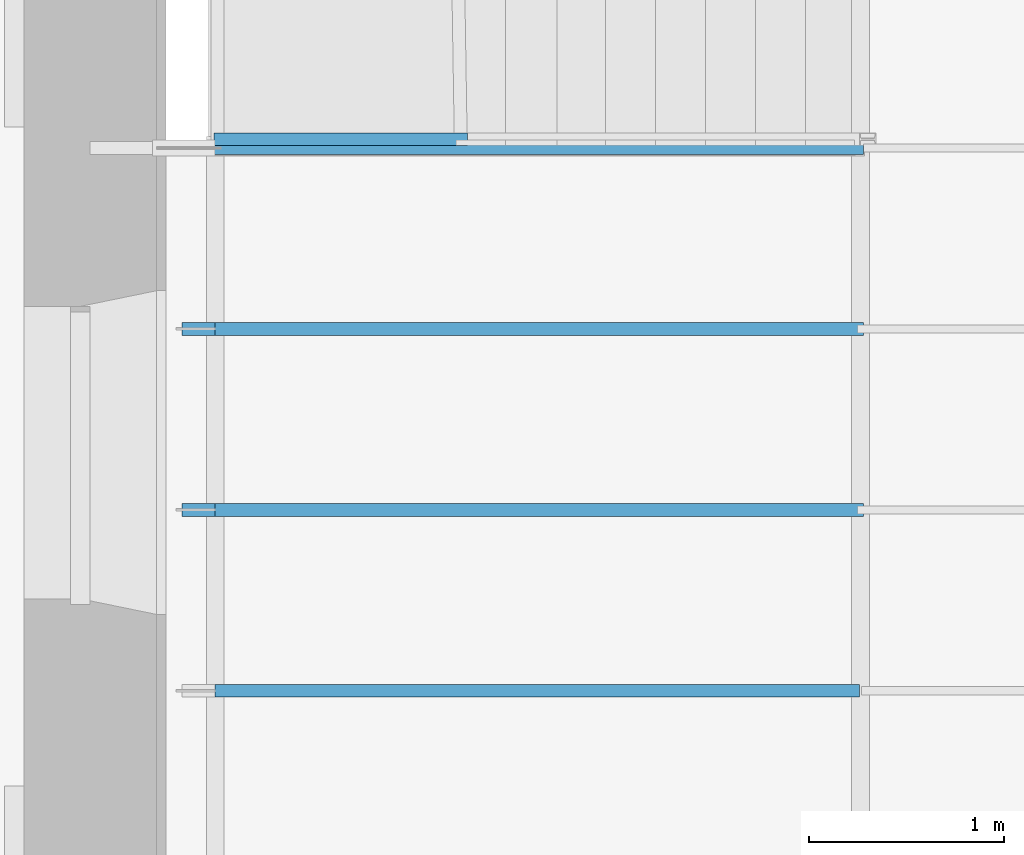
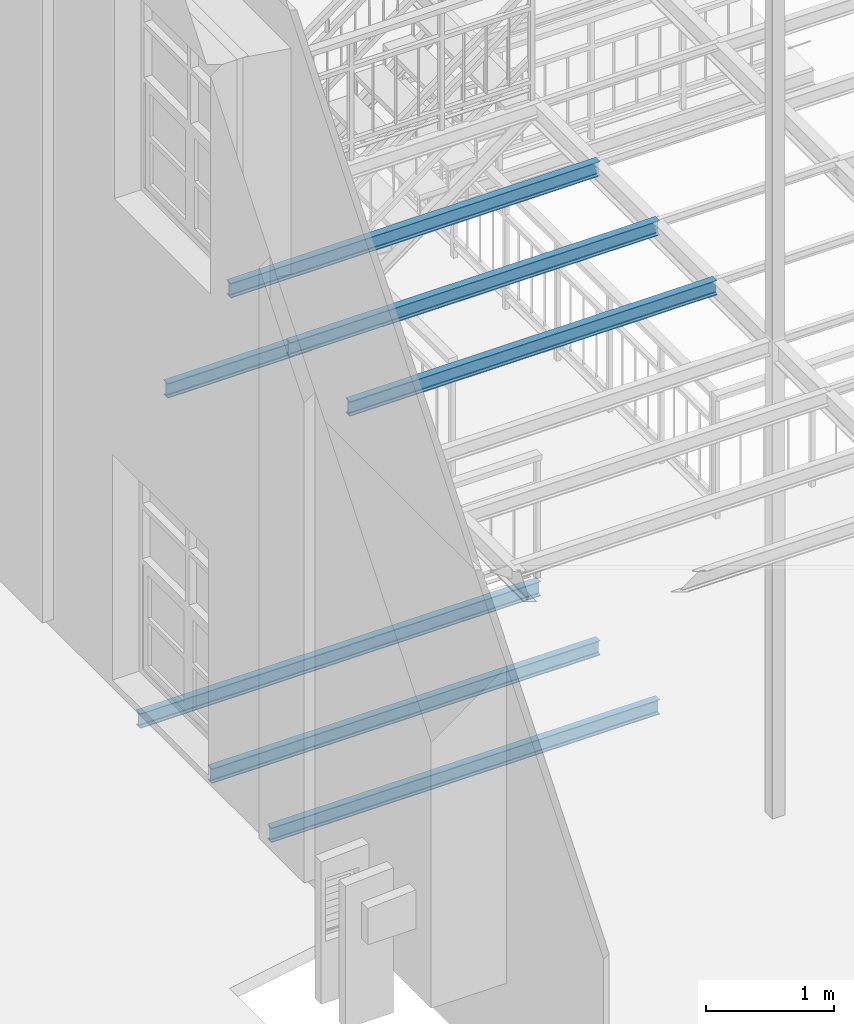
# One storey, part 3 of 33: 7 beams.
"""IFC2X3 building model written with IfcOpenShell, lengths in metres."""

import ifcopenshell
import ifcopenshell.guid

model = None  # the IFC model being written
_history = None  # IfcOwnerHistory: only IFC2X3 demands one
_inside = {}  # id of a spatial element -> (the spatial element, [elements in it])
_under = {}  # id of a project, library or spatial element -> (it, [spatial elements below it])
_declared = {}  # id of a project -> (the project, [libraries it declares])
_typed = {}  # id of a type object -> (the type object, [elements of that type])
_made_of = {}  # id of a material, layer set ... -> (it, [elements and type objects made of it])


def new_model(schema):
    """Start an empty IFC model of exactly this schema.

    Asked for "IFC4X3", IfcOpenShell would pick the latest addendum, in which some entities
    have other attributes; the version numbers below select the first issue.
    IFC2X3 requires an IfcOwnerHistory on every rooted entity: one is made here for all.
    """
    global model, _history
    if schema == "IFC4X3":
        model = ifcopenshell.file(schema_version=(4, 3, 0, 0))
    else:
        model = ifcopenshell.file(schema=schema)
    _inside.clear()
    _under.clear()
    _declared.clear()
    _typed.clear()
    _made_of.clear()
    _history = None
    if model.schema == "IFC2X3":
        org = make("IfcOrganization", Name="unknown")
        user = make(
            "IfcPersonAndOrganization",
            ThePerson=make("IfcPerson", FamilyName="unknown"),
            TheOrganization=org,
        )
        app = make(
            "IfcApplication",
            ApplicationDeveloper=org,
            Version="unknown",
            ApplicationFullName="unknown",
            ApplicationIdentifier="unknown",
        )
        _history = make(
            "IfcOwnerHistory",
            OwningUser=user,
            OwningApplication=app,
            ChangeAction="ADDED",
            CreationDate=0,
        )
    return model


def make(cls, **values):
    """One entity of the class cls with the attributes given. An attribute that is None is left unset."""
    return model.create_entity(
        cls, **{name: value for name, value in values.items() if value is not None}
    )


def entity(cls, *values):
    """Any entity or typed value of the class cls, its attributes in the order of the schema. None: left unset."""
    e = model.create_entity(cls)
    for i, value in enumerate(values):
        if value is not None:
            e[i] = value
    return e


def rooted(cls, **values):
    """An entity with a GlobalId (a new one), such as an element, a storey or a relation."""
    return make(cls, GlobalId=ifcopenshell.guid.new(), OwnerHistory=_history, **values)


def si_unit(unit_type, name, prefix=None):
    """IfcSIUnit, for example si_unit("LENGTHUNIT", "METRE", prefix="MILLI")."""
    return make("IfcSIUnit", UnitType=unit_type, Prefix=prefix, Name=name)


def converted_unit(unit_type, name, factor, base, dimensions=None, offset=None):
    """IfcConversionBasedUnit, such as the inch: factor (a typed value) times the base unit."""
    return make(
        "IfcConversionBasedUnit"
        if offset is None
        else "IfcConversionBasedUnitWithOffset",
        ConversionOffset=offset,
        Dimensions=None
        if dimensions is None
        else entity("IfcDimensionalExponents", *dimensions),
        UnitType=unit_type,
        Name=name,
        ConversionFactor=make(
            "IfcMeasureWithUnit", ValueComponent=factor, UnitComponent=base
        ),
    )


def derived_unit(unit_type, elements):
    """IfcDerivedUnit: a product of units, each with its exponent."""
    return make(
        "IfcDerivedUnit",
        Elements=[
            make("IfcDerivedUnitElement", Unit=unit, Exponent=power)
            for unit, power in elements
        ],
        UnitType=unit_type,
    )


def assignment(units):
    """IfcUnitAssignment: the units of a project."""
    return None if units is None else make("IfcUnitAssignment", Units=units)


def point(xyz):
    """IfcCartesianPoint."""
    return None if xyz is None else make("IfcCartesianPoint", Coordinates=xyz)


def direction(xyz):
    """IfcDirection."""
    return None if xyz is None else make("IfcDirection", DirectionRatios=xyz)


def frame(location, z_axis=None, x_axis=None):
    """IfcAxis2Placement3D, a coordinate frame: its origin and axes. An axis left out is left unset."""
    return make(
        "IfcAxis2Placement3D",
        Location=point(location),
        Axis=direction(z_axis),
        RefDirection=direction(x_axis),
    )


def frame_2d(location, x_axis=None):
    """IfcAxis2Placement2D, a coordinate frame in the plane: its origin and x axis."""
    return make(
        "IfcAxis2Placement2D", Location=point(location), RefDirection=direction(x_axis)
    )


def origin():
    """The frame at (0, 0, 0) with its axes left unset."""
    return frame((0.0, 0.0, 0.0))


def place(relative_to, where):
    """IfcLocalPlacement: puts the frame where relative to a parent placement (None: the world)."""
    return make(
        "IfcLocalPlacement", PlacementRelTo=relative_to, RelativePlacement=where
    )


def context(
    kind, dimensions, precision=None, world=None, true_north=None, identifier=None
):
    """IfcGeometricRepresentationContext, for example the 3D "Model" context."""
    return make(
        "IfcGeometricRepresentationContext",
        ContextIdentifier=identifier,
        ContextType=kind,
        CoordinateSpaceDimension=dimensions,
        Precision=precision,
        WorldCoordinateSystem=world,
        TrueNorth=true_north,
    )


def subcontext(parent, identifier, kind, view, scale=None):
    """IfcGeometricRepresentationSubContext, for example "Body" below "Model"."""
    return make(
        "IfcGeometricRepresentationSubContext",
        ContextIdentifier=identifier,
        ContextType=kind,
        ParentContext=parent,
        TargetScale=scale,
        TargetView=view,
    )


def project(units=None, contexts=None):
    """IfcProject with its units and contexts."""
    return rooted(
        "IfcProject",
        Name="project",
        RepresentationContexts=contexts,
        UnitsInContext=assignment(units),
    )


def spatial(cls, under=None, at=None, **own):
    """A site, building, storey or space (cls), placed at a placement, below another one or the project."""
    s = rooted(cls, ObjectPlacement=at, **own)
    if under is not None:
        _under.setdefault(under.id(), (under, []))[1].append(s)
    return s


def polyline(points):
    """IfcPolyline through the points."""
    return make("IfcPolyline", Points=[point(p) for p in points])


def circle_curve(where, radius):
    """IfcCircle in the frame where."""
    return make("IfcCircle", Position=where, Radius=radius)


def parameter(value):
    """IfcParameterValue: where a trimmed curve begins or ends, as a parameter of its basis curve."""
    return model.create_entity("IfcParameterValue", value)


def trimmed(basis, trim1, trim2, sense, master):
    """IfcTrimmedCurve: the piece of a basis curve between two trims."""
    return make(
        "IfcTrimmedCurve",
        BasisCurve=basis,
        Trim1=trim1,
        Trim2=trim2,
        SenseAgreement=sense,
        MasterRepresentation=master,
    )


def segment(curve, same_sense, transition):
    """IfcCompositeCurveSegment."""
    return make(
        "IfcCompositeCurveSegment",
        Transition=transition,
        SameSense=same_sense,
        ParentCurve=curve,
    )


def composite_curve(segments, self_intersect=None):
    """IfcCompositeCurve: segments joined end to end."""
    return make("IfcCompositeCurve", Segments=segments, SelfIntersect=self_intersect)


def outline(outer, holes=None, kind="AREA"):
    """IfcArbitraryClosedProfileDef: a profile drawn as a closed curve; with holes, ...WithVoids."""
    if holes is None:
        return make("IfcArbitraryClosedProfileDef", ProfileType=kind, OuterCurve=outer)
    return make(
        "IfcArbitraryProfileDefWithVoids",
        ProfileType=kind,
        OuterCurve=outer,
        InnerCurves=holes,
    )


def extrude(swept, where, along, depth):
    """IfcExtrudedAreaSolid: the profile swept, set in the frame where, extruded along a direction by depth."""
    return make(
        "IfcExtrudedAreaSolid",
        SweptArea=swept,
        Position=where,
        ExtrudedDirection=direction(along),
        Depth=depth,
    )


def shape(context_of_items, identifier, shape_type, items):
    """IfcShapeRepresentation: the items that make up one representation, for example the "Body"."""
    return make(
        "IfcShapeRepresentation",
        ContextOfItems=context_of_items,
        RepresentationIdentifier=identifier,
        RepresentationType=shape_type,
        Items=items,
    )


def material(Name=None, Category=None):
    """IfcMaterial."""
    return make("IfcMaterial", Name=Name, Category=Category)


def made_of(thing, what):
    """Note that an element or type object is made of a material, layer set ...; save() writes the relation."""
    if what is not None:
        _made_of.setdefault(what.id(), (what, []))[1].append(thing)
    return thing


def type_object(cls, material=None, **own):
    """A type object (cls), such as IfcWallType, which elements share."""
    return made_of(rooted(cls, **own), material)


def element(
    cls,
    number,
    at=None,
    inside=None,
    cuts=None,
    type_object=None,
    material=None,
    context=None,
    identifier="Body",
    shape_type=None,
    held_by="IfcProductDefinitionShape",
    body=None,
    shapes=None,
    **own,
):
    """One element of the class cls, such as IfcWall. Its Tag is "e" and its number.

    at: its placement. inside: the storey or other place that contains it. cuts: it is an
    opening in that element (IfcRelVoidsElement). A single representation is given by context,
    identifier, shape_type and body (its items); several are given by shapes. held_by: the class
    of the entity that holds the representations. save() writes the other relations.
    """
    e = rooted(cls, Tag="e%d" % number, ObjectPlacement=at, **own)
    if body is not None:
        shapes = [shape(context, identifier, shape_type, body)]
    if shapes is not None:
        e.Representation = make(held_by, Representations=shapes)
    if inside is not None:
        _inside.setdefault(inside.id(), (inside, []))[1].append(e)
    if cuts is not None:
        rooted(
            "IfcRelVoidsElement", RelatingBuildingElement=cuts, RelatedOpeningElement=e
        )
    if type_object is not None:
        _typed.setdefault(type_object.id(), (type_object, []))[1].append(e)
    return made_of(e, material)


def aggregate(whole, parts):
    """IfcRelAggregates: a whole, such as a stair, and the parts it consists of."""
    return rooted("IfcRelAggregates", RelatingObject=whole, RelatedObjects=parts)


def save(model, path):
    """Write the relations noted so far, then the file.

    IfcRelAggregates (storeys below a building ...), IfcRelContainedInSpatialStructure (elements
    in a storey), IfcRelDefinesByType, IfcRelAssociatesMaterial and IfcRelDeclares: one each for
    every whole, place, type object, material and project.
    """
    for whole, parts in _under.values():
        aggregate(whole, parts)
    for where, things in _inside.values():
        rooted(
            "IfcRelContainedInSpatialStructure",
            RelatedElements=things,
            RelatingStructure=where,
        )
    for kind, things in _typed.values():
        rooted("IfcRelDefinesByType", RelatedObjects=things, RelatingType=kind)
    for what, things in _made_of.values():
        rooted("IfcRelAssociatesMaterial", RelatedObjects=things, RelatingMaterial=what)
    for by, libraries in _declared.values():
        rooted("IfcRelDeclares", RelatingContext=by, RelatedDefinitions=libraries)
    model.write(path)


model = new_model("IFC2X3")

# Units and contexts
model_context = context("Model", 3, precision=1e-05, world=origin(), true_north=direction((6.12303176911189e-17, 1.0)))
body_context = subcontext(model_context, "Body", "Model", "MODEL_VIEW")
ifc_project = project(units=[si_unit("LENGTHUNIT", "METRE"), si_unit("AREAUNIT", "SQUARE_METRE"), si_unit("VOLUMEUNIT", "CUBIC_METRE"), converted_unit("PLANEANGLEUNIT", "DEGREE", entity("IfcRatioMeasure", 0.0174532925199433), si_unit("PLANEANGLEUNIT", "RADIAN"), dimensions=[0, 0, 0, 0, 0, 0, 0]), si_unit("MASSUNIT", "GRAM", prefix="KILO"), derived_unit("MASSDENSITYUNIT", [(si_unit("MASSUNIT", "GRAM", prefix="KILO"), 1), (si_unit("LENGTHUNIT", "METRE"), -3)]), derived_unit("MOMENTOFINERTIAUNIT", [(si_unit("LENGTHUNIT", "METRE"), 4)]), si_unit("TIMEUNIT", "SECOND"), si_unit("FREQUENCYUNIT", "HERTZ"), si_unit("THERMODYNAMICTEMPERATUREUNIT", "DEGREE_CELSIUS"), derived_unit("THERMALTRANSMITTANCEUNIT", [(si_unit("MASSUNIT", "GRAM", prefix="KILO"), 1), (si_unit("THERMODYNAMICTEMPERATUREUNIT", "KELVIN"), -1), (si_unit("TIMEUNIT", "SECOND"), -3)]), derived_unit("VOLUMETRICFLOWRATEUNIT", [(si_unit("LENGTHUNIT", "METRE"), 3), (si_unit("TIMEUNIT", "SECOND"), -1)]), si_unit("ELECTRICCURRENTUNIT", "AMPERE"), si_unit("ELECTRICVOLTAGEUNIT", "VOLT"), si_unit("POWERUNIT", "WATT"), si_unit("FORCEUNIT", "NEWTON", prefix="KILO"), si_unit("ILLUMINANCEUNIT", "LUX"), si_unit("LUMINOUSFLUXUNIT", "LUMEN"), si_unit("LUMINOUSINTENSITYUNIT", "CANDELA"), derived_unit("USERDEFINED", [(si_unit("MASSUNIT", "GRAM", prefix="KILO"), -1), (si_unit("LENGTHUNIT", "METRE"), -2), (si_unit("TIMEUNIT", "SECOND"), 3), (si_unit("LUMINOUSFLUXUNIT", "LUMEN"), 1)]), derived_unit("LINEARVELOCITYUNIT", [(si_unit("LENGTHUNIT", "METRE"), 1), (si_unit("TIMEUNIT", "SECOND"), -1)]), si_unit("PRESSUREUNIT", "PASCAL"), derived_unit("USERDEFINED", [(si_unit("LENGTHUNIT", "METRE"), -2), (si_unit("MASSUNIT", "GRAM", prefix="KILO"), 1), (si_unit("TIMEUNIT", "SECOND"), -2)]), derived_unit("LINEARFORCEUNIT", [(si_unit("MASSUNIT", "GRAM", prefix="KILO"), 1), (si_unit("LENGTHUNIT", "METRE"), 1), (si_unit("TIMEUNIT", "SECOND"), -2), (si_unit("LENGTHUNIT", "METRE"), -1)]), derived_unit("PLANARFORCEUNIT", [(si_unit("MASSUNIT", "GRAM", prefix="KILO"), 1), (si_unit("LENGTHUNIT", "METRE"), 1), (si_unit("TIMEUNIT", "SECOND"), -2), (si_unit("LENGTHUNIT", "METRE"), -2)])], contexts=[model_context])

# Site, building, storey
site_placement = place(None, origin())
site = spatial("IfcSite", under=ifc_project, at=site_placement, Name="Superficie", CompositionType="ELEMENT")
building_placement = place(site_placement, origin())
building = spatial("IfcBuilding", under=site, at=building_placement, Name="Telegestiones", CompositionType="ELEMENT")
storey_placement = place(building_placement, frame((0.0, 0.0, 4.94)))
storey = spatial("IfcBuildingStorey", under=building, at=storey_placement, Name="Nivel 1_NPT", CompositionType="ELEMENT", Elevation=4.94)

# Beams
ifc_material = material(Name="Metal - Acero - 345 MPa")
beam_type = type_object("IfcBeamType", Name="IPN - Secciones en I con alas cónicas:IPN 140", PredefinedType="NOTDEFINED")
beam_1_placement = place(storey_placement, frame((6.06015072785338, 1.48459406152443, 0.0)))
element("IfcBeam", 1, at=beam_1_placement, inside=storey, type_object=beam_type, material=ifc_material, Name="IPN - Secciones en I con alas cónicas:IPN 140", ObjectType="IPN - Secciones en I con alas cónicas:IPN 140", context=body_context, shape_type="SweptSolid", body=[
    extrude(outline(composite_curve([segment(polyline([(0.0666671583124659, -0.0330000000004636), (0.0699999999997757, -0.0330000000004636)]), True, "CONTINUOUS"), segment(polyline([(0.0699999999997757, -0.0330000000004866), (0.070000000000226, 0.0329999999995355)]), True, "CONTINUOUS"), segment(polyline([(0.0700000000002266, 0.0329999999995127), (0.0666671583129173, 0.0329999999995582)]), True, "CONTINUOUS"), segment(trimmed(circle_curve(frame_2d((0.0666671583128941, 0.0295999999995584), x_axis=(0.0, 1.0)), 0.00339999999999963), [parameter(0.0)], [parameter(82.0303896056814)], True, "PARAMETER"), True, "CONTINUOUS"), segment(polyline([(0.0632999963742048, 0.0300714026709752), (0.0601763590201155, 0.00775970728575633)]), True, "CONTINUOUS"), segment(trimmed(circle_curve(frame_2d((0.0545314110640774, 0.0085499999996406), x_axis=(0.990341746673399, -0.138647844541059)), 0.0056999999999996), [parameter(277.969610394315)], [parameter(0.0)], True, "PARAMETER"), False, "CONTINUOUS"), segment(polyline([(0.0545314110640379, 0.00284999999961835), (-0.054531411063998, 0.00285000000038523)]), True, "CONTINUOUS"), segment(trimmed(circle_curve(frame_2d((-0.0545314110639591, 0.00855000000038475), x_axis=(0.0, -1.0)), 0.00569999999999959), [parameter(277.969610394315)], [parameter(0.0)], True, "PARAMETER"), False, "CONTINUOUS"), segment(polyline([(-0.060176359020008, 0.00775970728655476), (-0.0632999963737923, 0.030071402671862)]), True, "CONTINUOUS"), segment(trimmed(circle_curve(frame_2d((-0.0666671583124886, 0.0296000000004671), x_axis=(0.990341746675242, 0.138647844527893)), 0.00340000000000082), [parameter(0.0)], [parameter(82.0303896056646)], True, "PARAMETER"), True, "CONTINUOUS"), segment(polyline([(-0.0666671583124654, 0.0330000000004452), (-0.0699999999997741, 0.0330000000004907)]), True, "CONTINUOUS"), segment(polyline([(-0.0699999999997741, 0.033000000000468), (-0.0700000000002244, -0.0329999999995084)]), True, "CONTINUOUS"), segment(polyline([(-0.0700000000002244, -0.0329999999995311), (-0.0666671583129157, -0.0329999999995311)]), True, "CONTINUOUS"), segment(trimmed(circle_curve(frame_2d((-0.0666671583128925, -0.0295999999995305), x_axis=(0.0, -1.0)), 0.00340000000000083), [parameter(0.0)], [parameter(82.0303896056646)], True, "PARAMETER"), True, "CONTINUOUS"), segment(polyline([(-0.0632999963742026, -0.0300714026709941), (-0.0601763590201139, -0.00775970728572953)]), True, "CONTINUOUS"), segment(trimmed(circle_curve(frame_2d((-0.0545314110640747, -0.00854999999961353), x_axis=(-0.990341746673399, 0.138647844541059)), 0.00569999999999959), [parameter(277.969610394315)], [parameter(0.0)], True, "PARAMETER"), False, "CONTINUOUS"), segment(polyline([(-0.0545314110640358, -0.00284999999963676), (0.054531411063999, -0.00285000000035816)]), True, "CONTINUOUS"), segment(trimmed(circle_curve(frame_2d((0.0545314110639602, -0.00855000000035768), x_axis=(0.0, 1.0)), 0.0056999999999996), [parameter(277.969610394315)], [parameter(0.0)], True, "PARAMETER"), False, "CONTINUOUS"), segment(polyline([(0.0601763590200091, -0.00775970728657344), (0.0632999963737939, -0.0300714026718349)]), True, "CONTINUOUS"), segment(trimmed(circle_curve(frame_2d((0.0666671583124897, -0.0296000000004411), x_axis=(-0.990341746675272, -0.13864784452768)), 0.00340000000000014), [parameter(0.0)], [parameter(82.0303896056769)], True, "PARAMETER"), True, "CONTINUOUS")], self_intersect=False)), frame((-0.00461847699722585, 0.0, -0.100000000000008), z_axis=(1.0, 0.0, 0.0), x_axis=(0.0, 0.0, -1.0)), (0.0, 0.0, 1.0), 3.60394942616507),
])
beam_2_placement = place(storey_placement, frame((6.16481262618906, 0.556847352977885, 0.0)))
element("IfcBeam", 2, at=beam_2_placement, inside=storey, type_object=beam_type, material=ifc_material, Name="IPN - Secciones en I con alas cónicas:IPN 140", ObjectType="IPN - Secciones en I con alas cónicas:IPN 140", context=body_context, shape_type="SweptSolid", body=[
    extrude(outline(composite_curve([segment(polyline([(0.0666671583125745, -0.0330000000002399), (0.0699999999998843, -0.0330000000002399)]), True, "CONTINUOUS"), segment(polyline([(0.0699999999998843, -0.0330000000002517), (0.0700000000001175, 0.0329999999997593)]), True, "CONTINUOUS"), segment(polyline([(0.070000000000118, 0.0329999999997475), (0.0666671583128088, 0.0329999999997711)]), True, "CONTINUOUS"), segment(trimmed(circle_curve(frame_2d((0.0666671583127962, 0.0295999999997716), x_axis=(0.0, 1.0)), 0.00339999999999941), [parameter(0.0)], [parameter(82.0303896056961)], True, "PARAMETER"), True, "CONTINUOUS"), segment(polyline([(0.0632999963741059, 0.0300714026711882), (0.06017635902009, 0.00775970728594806)]), True, "CONTINUOUS"), segment(trimmed(circle_curve(frame_2d((0.0545314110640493, 0.00854999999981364), x_axis=(0.99034174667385, -0.138647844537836)), 0.0056999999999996), [parameter(277.969610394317)], [parameter(0.0)], True, "PARAMETER"), False, "CONTINUOUS"), segment(polyline([(0.0545314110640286, 0.00284999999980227), (-0.0545314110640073, 0.00285000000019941)]), True, "CONTINUOUS"), segment(trimmed(circle_curve(frame_2d((-0.0545314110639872, 0.00855000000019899), x_axis=(0.0, -1.0)), 0.00569999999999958), [parameter(277.969610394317)], [parameter(0.0)], True, "PARAMETER"), False, "CONTINUOUS"), segment(polyline([(-0.0601763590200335, 0.00775970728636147), (-0.0632999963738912, 0.0300714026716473)]), True, "CONTINUOUS"), segment(trimmed(circle_curve(frame_2d((-0.066667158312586, 0.0296000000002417), x_axis=(0.990341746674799, 0.138647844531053)), 0.00340000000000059), [parameter(0.0)], [parameter(82.0303896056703)], True, "PARAMETER"), True, "CONTINUOUS"), segment(polyline([(-0.0666671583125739, 0.0330000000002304), (-0.0699999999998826, 0.033000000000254)]), True, "CONTINUOUS"), segment(polyline([(-0.0699999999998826, 0.0330000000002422), (-0.0700000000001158, -0.0329999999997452)]), True, "CONTINUOUS"), segment(polyline([(-0.0700000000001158, -0.032999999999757), (-0.0666671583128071, -0.032999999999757)]), True, "CONTINUOUS"), segment(trimmed(circle_curve(frame_2d((-0.0666671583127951, -0.0295999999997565), x_axis=(0.0, -1.0)), 0.00340000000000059), [parameter(0.0)], [parameter(82.0303896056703)], True, "PARAMETER"), True, "CONTINUOUS"), segment(polyline([(-0.0632999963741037, -0.0300714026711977), (-0.0601763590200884, -0.00775970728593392)]), True, "CONTINUOUS"), segment(trimmed(circle_curve(frame_2d((-0.0545314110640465, -0.00854999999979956), x_axis=(-0.99034174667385, 0.138647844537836)), 0.0056999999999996), [parameter(277.969610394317)], [parameter(0.0)], True, "PARAMETER"), False, "CONTINUOUS"), segment(polyline([(-0.0545314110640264, -0.00284999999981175), (0.0545314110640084, -0.00285000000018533)]), True, "CONTINUOUS"), segment(trimmed(circle_curve(frame_2d((0.0545314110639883, -0.00855000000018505), x_axis=(0.0, 1.0)), 0.00569999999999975), [parameter(277.969610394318)], [parameter(0.0)], True, "PARAMETER"), False, "CONTINUOUS"), segment(polyline([(0.0601763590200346, -0.00775970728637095), (0.0632999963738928, -0.0300714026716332)]), True, "CONTINUOUS"), segment(trimmed(circle_curve(frame_2d((0.0666671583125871, -0.0296000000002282), x_axis=(-0.990341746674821, -0.138647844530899)), 0.0033999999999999), [parameter(0.0)], [parameter(82.0303896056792)], True, "PARAMETER"), True, "CONTINUOUS")], self_intersect=False)), frame((0.0, 0.0, -0.100000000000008), z_axis=(1.0, 0.0, 0.0), x_axis=(0.0, 0.0, -1.0)), (0.0, 0.0, 1.0), 3.495),
])
beam_3_placement = place(storey_placement, frame((6.16481262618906, -0.370899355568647, 0.0)))
element("IfcBeam", 3, at=beam_3_placement, inside=storey, type_object=beam_type, material=ifc_material, Name="IPN - Secciones en I con alas cónicas:IPN 140", ObjectType="IPN - Secciones en I con alas cónicas:IPN 140", context=body_context, shape_type="SweptSolid", body=[
    extrude(outline(composite_curve([segment(polyline([(0.0666671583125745, -0.0330000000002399), (0.0699999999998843, -0.0330000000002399)]), True, "CONTINUOUS"), segment(polyline([(0.0699999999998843, -0.0330000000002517), (0.0700000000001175, 0.0329999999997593)]), True, "CONTINUOUS"), segment(polyline([(0.070000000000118, 0.0329999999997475), (0.0666671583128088, 0.0329999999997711)]), True, "CONTINUOUS"), segment(trimmed(circle_curve(frame_2d((0.0666671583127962, 0.0295999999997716), x_axis=(0.0, 1.0)), 0.00339999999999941), [parameter(0.0)], [parameter(82.0303896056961)], True, "PARAMETER"), True, "CONTINUOUS"), segment(polyline([(0.0632999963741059, 0.0300714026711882), (0.06017635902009, 0.00775970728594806)]), True, "CONTINUOUS"), segment(trimmed(circle_curve(frame_2d((0.0545314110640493, 0.00854999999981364), x_axis=(0.99034174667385, -0.138647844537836)), 0.0056999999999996), [parameter(277.969610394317)], [parameter(0.0)], True, "PARAMETER"), False, "CONTINUOUS"), segment(polyline([(0.0545314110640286, 0.00284999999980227), (-0.0545314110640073, 0.00285000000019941)]), True, "CONTINUOUS"), segment(trimmed(circle_curve(frame_2d((-0.0545314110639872, 0.00855000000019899), x_axis=(0.0, -1.0)), 0.00569999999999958), [parameter(277.969610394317)], [parameter(0.0)], True, "PARAMETER"), False, "CONTINUOUS"), segment(polyline([(-0.0601763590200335, 0.00775970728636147), (-0.0632999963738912, 0.0300714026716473)]), True, "CONTINUOUS"), segment(trimmed(circle_curve(frame_2d((-0.066667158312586, 0.0296000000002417), x_axis=(0.990341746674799, 0.138647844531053)), 0.00340000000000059), [parameter(0.0)], [parameter(82.0303896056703)], True, "PARAMETER"), True, "CONTINUOUS"), segment(polyline([(-0.0666671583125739, 0.0330000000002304), (-0.0699999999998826, 0.033000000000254)]), True, "CONTINUOUS"), segment(polyline([(-0.0699999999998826, 0.0330000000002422), (-0.0700000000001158, -0.0329999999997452)]), True, "CONTINUOUS"), segment(polyline([(-0.0700000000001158, -0.032999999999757), (-0.0666671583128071, -0.032999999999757)]), True, "CONTINUOUS"), segment(trimmed(circle_curve(frame_2d((-0.0666671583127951, -0.0295999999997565), x_axis=(0.0, -1.0)), 0.00340000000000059), [parameter(0.0)], [parameter(82.0303896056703)], True, "PARAMETER"), True, "CONTINUOUS"), segment(polyline([(-0.0632999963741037, -0.0300714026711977), (-0.0601763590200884, -0.00775970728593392)]), True, "CONTINUOUS"), segment(trimmed(circle_curve(frame_2d((-0.0545314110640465, -0.00854999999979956), x_axis=(-0.99034174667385, 0.138647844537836)), 0.0056999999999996), [parameter(277.969610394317)], [parameter(0.0)], True, "PARAMETER"), False, "CONTINUOUS"), segment(polyline([(-0.0545314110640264, -0.00284999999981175), (0.0545314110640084, -0.00285000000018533)]), True, "CONTINUOUS"), segment(trimmed(circle_curve(frame_2d((0.0545314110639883, -0.00855000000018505), x_axis=(0.0, 1.0)), 0.00569999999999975), [parameter(277.969610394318)], [parameter(0.0)], True, "PARAMETER"), False, "CONTINUOUS"), segment(polyline([(0.0601763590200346, -0.00775970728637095), (0.0632999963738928, -0.0300714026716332)]), True, "CONTINUOUS"), segment(trimmed(circle_curve(frame_2d((0.0666671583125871, -0.0296000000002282), x_axis=(-0.990341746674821, -0.138647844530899)), 0.0033999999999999), [parameter(0.0)], [parameter(82.0303896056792)], True, "PARAMETER"), True, "CONTINUOUS")], self_intersect=False)), frame((0.0, 0.0, -0.100000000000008), z_axis=(1.0, 0.0, 0.0), x_axis=(0.0, 0.0, -1.0)), (0.0, 0.0, 1.0), 3.495),
])
beam_4_placement = place(storey_placement, frame((6.33481262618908, 0.556847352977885, 4.56)))
element("IfcBeam", 4, at=beam_4_placement, inside=storey, type_object=beam_type, material=ifc_material, Name="IPN - Secciones en I con alas cónicas:IPN 140", ObjectType="IPN - Secciones en I con alas cónicas:IPN 140", context=body_context, shape_type="SweptSolid", body=[
    extrude(outline(composite_curve([segment(polyline([(0.0666671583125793, -0.0330000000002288), (0.0699999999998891, -0.0330000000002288)]), True, "CONTINUOUS"), segment(polyline([(0.0699999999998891, -0.03300000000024), (0.0700000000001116, 0.0329999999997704)]), True, "CONTINUOUS"), segment(polyline([(0.0700000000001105, 0.0329999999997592), (0.0666671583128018, 0.0329999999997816)]), True, "CONTINUOUS"), segment(trimmed(circle_curve(frame_2d((0.0666671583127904, 0.0295999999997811), x_axis=(0.0, 1.0)), 0.00340000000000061), [parameter(0.0)], [parameter(82.0303896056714)], True, "PARAMETER"), True, "CONTINUOUS"), segment(polyline([(0.0632999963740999, 0.0300714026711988), (0.0601763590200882, 0.00775970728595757)]), True, "CONTINUOUS"), segment(trimmed(circle_curve(frame_2d((0.0545314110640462, 0.00854999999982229), x_axis=(0.990341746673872, -0.138647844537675)), 0.0056999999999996), [parameter(277.969610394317)], [parameter(0.0)], True, "PARAMETER"), False, "CONTINUOUS"), segment(polyline([(0.054531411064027, 0.0028499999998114), (-0.0545314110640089, 0.00285000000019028)]), True, "CONTINUOUS"), segment(trimmed(circle_curve(frame_2d((-0.0545314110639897, 0.00855000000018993), x_axis=(0.0, -1.0)), 0.00569999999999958), [parameter(277.969610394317)], [parameter(0.0)], True, "PARAMETER"), False, "CONTINUOUS"), segment(polyline([(-0.0601763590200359, 0.00775970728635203), (-0.0632999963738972, 0.0300714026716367)]), True, "CONTINUOUS"), segment(trimmed(circle_curve(frame_2d((-0.0666671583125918, 0.0296000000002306), x_axis=(0.990341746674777, 0.138647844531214)), 0.00340000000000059), [parameter(0.0)], [parameter(82.0303896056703)], True, "PARAMETER"), True, "CONTINUOUS"), segment(polyline([(-0.0666671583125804, 0.0330000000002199), (-0.0699999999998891, 0.0330000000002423)]), True, "CONTINUOUS"), segment(polyline([(-0.0699999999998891, 0.0330000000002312), (-0.0700000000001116, -0.0329999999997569)]), True, "CONTINUOUS"), segment(polyline([(-0.0700000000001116, -0.0329999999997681), (-0.0666671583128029, -0.0329999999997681)]), True, "CONTINUOUS"), segment(trimmed(circle_curve(frame_2d((-0.0666671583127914, -0.0295999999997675), x_axis=(0.0, -1.0)), 0.00340000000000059), [parameter(0.0)], [parameter(82.0303896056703)], True, "PARAMETER"), True, "CONTINUOUS"), segment(polyline([(-0.0632999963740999, -0.0300714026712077), (-0.0601763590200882, -0.00775970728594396)]), True, "CONTINUOUS"), segment(trimmed(circle_curve(frame_2d((-0.0545314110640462, -0.00854999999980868), x_axis=(-0.990341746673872, 0.138647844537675)), 0.0056999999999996), [parameter(277.969610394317)], [parameter(0.0)], True, "PARAMETER"), False, "CONTINUOUS"), segment(polyline([(-0.054531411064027, -0.00284999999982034), (0.0545314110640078, -0.00285000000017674)]), True, "CONTINUOUS"), segment(trimmed(circle_curve(frame_2d((0.0545314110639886, -0.00855000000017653), x_axis=(0.0, 1.0)), 0.00569999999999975), [parameter(277.969610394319)], [parameter(0.0)], True, "PARAMETER"), False, "CONTINUOUS"), segment(polyline([(0.0601763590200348, -0.0077597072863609), (0.0632999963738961, -0.0300714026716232)]), True, "CONTINUOUS"), segment(trimmed(circle_curve(frame_2d((0.0666671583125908, -0.029600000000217), x_axis=(-0.990341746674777, -0.138647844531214)), 0.00340000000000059), [parameter(0.0)], [parameter(82.0303896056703)], True, "PARAMETER"), True, "CONTINUOUS")], self_intersect=False)), frame((0.0, 0.0, -0.100000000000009), z_axis=(1.0, 0.0, 0.0), x_axis=(0.0, 0.0, -1.0)), (0.0, 0.0, 1.0), 3.325),
])
beam_5_placement = place(storey_placement, frame((6.33481262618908, -0.370899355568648, 4.56)))
element("IfcBeam", 5, at=beam_5_placement, inside=storey, type_object=beam_type, material=ifc_material, Name="IPN - Secciones en I con alas cónicas:IPN 140", ObjectType="IPN - Secciones en I con alas cónicas:IPN 140", context=body_context, shape_type="SweptSolid", body=[
    extrude(outline(composite_curve([segment(polyline([(0.0666671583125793, -0.0330000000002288), (0.0699999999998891, -0.0330000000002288)]), True, "CONTINUOUS"), segment(polyline([(0.0699999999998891, -0.03300000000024), (0.0700000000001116, 0.0329999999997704)]), True, "CONTINUOUS"), segment(polyline([(0.0700000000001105, 0.0329999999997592), (0.0666671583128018, 0.0329999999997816)]), True, "CONTINUOUS"), segment(trimmed(circle_curve(frame_2d((0.0666671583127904, 0.0295999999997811), x_axis=(0.0, 1.0)), 0.00340000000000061), [parameter(0.0)], [parameter(82.0303896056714)], True, "PARAMETER"), True, "CONTINUOUS"), segment(polyline([(0.0632999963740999, 0.0300714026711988), (0.0601763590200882, 0.00775970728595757)]), True, "CONTINUOUS"), segment(trimmed(circle_curve(frame_2d((0.0545314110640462, 0.00854999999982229), x_axis=(0.990341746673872, -0.138647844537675)), 0.0056999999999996), [parameter(277.969610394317)], [parameter(0.0)], True, "PARAMETER"), False, "CONTINUOUS"), segment(polyline([(0.054531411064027, 0.0028499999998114), (-0.0545314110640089, 0.00285000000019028)]), True, "CONTINUOUS"), segment(trimmed(circle_curve(frame_2d((-0.0545314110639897, 0.00855000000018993), x_axis=(0.0, -1.0)), 0.00569999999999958), [parameter(277.969610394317)], [parameter(0.0)], True, "PARAMETER"), False, "CONTINUOUS"), segment(polyline([(-0.0601763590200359, 0.00775970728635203), (-0.0632999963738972, 0.0300714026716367)]), True, "CONTINUOUS"), segment(trimmed(circle_curve(frame_2d((-0.0666671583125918, 0.0296000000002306), x_axis=(0.990341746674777, 0.138647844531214)), 0.00340000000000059), [parameter(0.0)], [parameter(82.0303896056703)], True, "PARAMETER"), True, "CONTINUOUS"), segment(polyline([(-0.0666671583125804, 0.0330000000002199), (-0.0699999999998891, 0.0330000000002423)]), True, "CONTINUOUS"), segment(polyline([(-0.0699999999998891, 0.0330000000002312), (-0.0700000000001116, -0.0329999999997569)]), True, "CONTINUOUS"), segment(polyline([(-0.0700000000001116, -0.0329999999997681), (-0.0666671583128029, -0.0329999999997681)]), True, "CONTINUOUS"), segment(trimmed(circle_curve(frame_2d((-0.0666671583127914, -0.0295999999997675), x_axis=(0.0, -1.0)), 0.00340000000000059), [parameter(0.0)], [parameter(82.0303896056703)], True, "PARAMETER"), True, "CONTINUOUS"), segment(polyline([(-0.0632999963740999, -0.0300714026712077), (-0.0601763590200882, -0.00775970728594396)]), True, "CONTINUOUS"), segment(trimmed(circle_curve(frame_2d((-0.0545314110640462, -0.00854999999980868), x_axis=(-0.990341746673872, 0.138647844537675)), 0.0056999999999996), [parameter(277.969610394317)], [parameter(0.0)], True, "PARAMETER"), False, "CONTINUOUS"), segment(polyline([(-0.054531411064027, -0.00284999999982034), (0.0545314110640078, -0.00285000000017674)]), True, "CONTINUOUS"), segment(trimmed(circle_curve(frame_2d((0.0545314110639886, -0.00855000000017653), x_axis=(0.0, 1.0)), 0.00569999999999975), [parameter(277.969610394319)], [parameter(0.0)], True, "PARAMETER"), False, "CONTINUOUS"), segment(polyline([(0.0601763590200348, -0.0077597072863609), (0.0632999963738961, -0.0300714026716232)]), True, "CONTINUOUS"), segment(trimmed(circle_curve(frame_2d((0.0666671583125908, -0.029600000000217), x_axis=(-0.990341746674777, -0.138647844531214)), 0.00340000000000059), [parameter(0.0)], [parameter(82.0303896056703)], True, "PARAMETER"), True, "CONTINUOUS")], self_intersect=False)), frame((0.0, 0.0, -0.100000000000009), z_axis=(1.0, 0.0, 0.0), x_axis=(0.0, 0.0, -1.0)), (0.0, 0.0, 1.0), 3.325),
])
beam_6_placement = place(storey_placement, frame((6.33481262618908, -1.29864606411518, 4.56)))
element("IfcBeam", 6, at=beam_6_placement, inside=storey, type_object=beam_type, material=ifc_material, Name="IPN - Secciones en I con alas cónicas:IPN 140", ObjectType="IPN - Secciones en I con alas cónicas:IPN 140", context=body_context, shape_type="SweptSolid", body=[
    extrude(outline(composite_curve([segment(polyline([(0.0666671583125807, -0.0330000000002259), (0.0699999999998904, -0.0330000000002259)]), True, "CONTINUOUS"), segment(polyline([(0.0699999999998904, -0.0330000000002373), (0.0700000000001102, 0.0329999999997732)]), True, "CONTINUOUS"), segment(polyline([(0.0700000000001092, 0.0329999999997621), (0.0666671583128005, 0.0329999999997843)]), True, "CONTINUOUS"), segment(trimmed(circle_curve(frame_2d((0.0666671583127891, 0.0295999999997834), x_axis=(0.0, 1.0)), 0.00340000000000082), [parameter(0.0)], [parameter(82.0303896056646)], True, "PARAMETER"), True, "CONTINUOUS"), segment(polyline([(0.0632999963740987, 0.0300714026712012), (0.0601763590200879, 0.00775970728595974)]), True, "CONTINUOUS"), segment(trimmed(circle_curve(frame_2d((0.0545314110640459, 0.0085499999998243), x_axis=(0.990341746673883, -0.1386478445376)), 0.0056999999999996), [parameter(277.969610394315)], [parameter(0.0)], True, "PARAMETER"), False, "CONTINUOUS"), segment(polyline([(0.0545314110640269, 0.00284999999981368), (-0.054531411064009, 0.002850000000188)]), True, "CONTINUOUS"), segment(trimmed(circle_curve(frame_2d((-0.05453141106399, 0.00855000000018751), x_axis=(0.0, -1.0)), 0.00569999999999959), [parameter(277.969610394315)], [parameter(0.0)], True, "PARAMETER"), False, "CONTINUOUS"), segment(polyline([(-0.0601763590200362, 0.00775970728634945), (-0.0632999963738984, 0.0300714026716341)]), True, "CONTINUOUS"), segment(trimmed(circle_curve(frame_2d((-0.0666671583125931, 0.0296000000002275), x_axis=(0.990341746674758, 0.138647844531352)), 0.00340000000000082), [parameter(0.0)], [parameter(82.0303896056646)], True, "PARAMETER"), True, "CONTINUOUS"), segment(polyline([(-0.0666671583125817, 0.0330000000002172), (-0.0699999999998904, 0.0330000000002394)]), True, "CONTINUOUS"), segment(polyline([(-0.0699999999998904, 0.0330000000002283), (-0.0700000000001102, -0.0329999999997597)]), True, "CONTINUOUS"), segment(polyline([(-0.0700000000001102, -0.0329999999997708), (-0.0666671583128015, -0.0329999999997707)]), True, "CONTINUOUS"), segment(trimmed(circle_curve(frame_2d((-0.0666671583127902, -0.0295999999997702), x_axis=(0.0, -1.0)), 0.00340000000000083), [parameter(0.0)], [parameter(82.0303896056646)], True, "PARAMETER"), True, "CONTINUOUS"), segment(polyline([(-0.0632999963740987, -0.0300714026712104), (-0.0601763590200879, -0.00775970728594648)]), True, "CONTINUOUS"), segment(trimmed(circle_curve(frame_2d((-0.0545314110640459, -0.00854999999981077), x_axis=(-0.990341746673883, 0.1386478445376)), 0.00569999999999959), [parameter(277.969610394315)], [parameter(0.0)], True, "PARAMETER"), False, "CONTINUOUS"), segment(polyline([(-0.0545314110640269, -0.00284999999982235), (0.0545314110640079, -0.00285000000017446)]), True, "CONTINUOUS"), segment(trimmed(circle_curve(frame_2d((0.0545314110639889, -0.00855000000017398), x_axis=(0.0, 1.0)), 0.0056999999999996), [parameter(277.969610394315)], [parameter(0.0)], True, "PARAMETER"), False, "CONTINUOUS"), segment(polyline([(0.0601763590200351, -0.00775970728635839), (0.0632999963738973, -0.0300714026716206)]), True, "CONTINUOUS"), segment(trimmed(circle_curve(frame_2d((0.066667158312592, -0.0296000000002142), x_axis=(-0.990341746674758, -0.138647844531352)), 0.00340000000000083), [parameter(0.0)], [parameter(82.0303896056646)], True, "PARAMETER"), True, "CONTINUOUS")], self_intersect=False)), frame((0.0, 0.0, -0.100000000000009), z_axis=(1.0, 0.0, 0.0), x_axis=(0.0, 0.0, -1.0)), (0.0, 0.0, 1.0), 3.306),
])
beam_7_placement = place(storey_placement, frame((7.59481262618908, 1.52934260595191, 2.98941250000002), z_axis=(0.0, 0.0, 1.0), x_axis=(-1.0, 0.0, 0.0)))
element("IfcBeam", 7, at=beam_7_placement, inside=storey, type_object=beam_type, material=ifc_material, Name="IPN - Secciones en I con alas cónicas:IPN 140", ObjectType="IPN - Secciones en I con alas cónicas:IPN 140", context=body_context, shape_type="SweptSolid", body=[
    extrude(outline(composite_curve([segment(polyline([(0.0666671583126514, -0.0330000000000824), (0.0699999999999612, -0.0330000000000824)]), True, "CONTINUOUS"), segment(polyline([(0.0699999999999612, -0.0330000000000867), (0.0700000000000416, 0.0329999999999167)]), True, "CONTINUOUS"), segment(polyline([(0.0700000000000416, 0.0329999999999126), (0.0666671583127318, 0.0329999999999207)]), True, "CONTINUOUS"), segment(trimmed(circle_curve(frame_2d((0.0666671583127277, 0.0295999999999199), x_axis=(0.0, 1.0)), 0.00340000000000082), [parameter(0.0)], [parameter(82.0303896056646)], True, "PARAMETER"), True, "CONTINUOUS"), segment(polyline([(0.0632999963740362, 0.0300714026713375), (0.0601763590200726, 0.0077597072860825)]), True, "CONTINUOUS"), segment(trimmed(circle_curve(frame_2d((0.0545314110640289, 0.00854999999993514), x_axis=(0.990341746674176, -0.138647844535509)), 0.0056999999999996), [parameter(277.969610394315)], [parameter(0.0)], True, "PARAMETER"), False, "CONTINUOUS"), segment(polyline([(0.054531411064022, 0.00284999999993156), (-0.0545314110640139, 0.0028500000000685)]), True, "CONTINUOUS"), segment(trimmed(circle_curve(frame_2d((-0.054531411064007, 0.00855000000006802), x_axis=(0.0, -1.0)), 0.00569999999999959), [parameter(277.969610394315)], [parameter(0.0)], True, "PARAMETER"), False, "CONTINUOUS"), segment(polyline([(-0.0601763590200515, 0.00775970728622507), (-0.0632999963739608, 0.0300714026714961)]), True, "CONTINUOUS"), segment(trimmed(circle_curve(frame_2d((-0.0666671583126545, 0.0296000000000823), x_axis=(0.990341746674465, 0.138647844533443)), 0.00340000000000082), [parameter(0.0)], [parameter(82.0303896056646)], True, "PARAMETER"), True, "CONTINUOUS"), segment(polyline([(-0.0666671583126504, 0.0330000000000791), (-0.0699999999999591, 0.0330000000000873)]), True, "CONTINUOUS"), segment(polyline([(-0.0699999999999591, 0.0330000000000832), (-0.0700000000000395, -0.0329999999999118)]), True, "CONTINUOUS"), segment(polyline([(-0.0700000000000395, -0.0329999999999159), (-0.0666671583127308, -0.0329999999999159)]), True, "CONTINUOUS"), segment(trimmed(circle_curve(frame_2d((-0.0666671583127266, -0.0295999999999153), x_axis=(0.0, -1.0)), 0.00340000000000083), [parameter(0.0)], [parameter(82.0303896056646)], True, "PARAMETER"), True, "CONTINUOUS"), segment(polyline([(-0.0632999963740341, -0.0300714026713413), (-0.0601763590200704, -0.0077597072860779)]), True, "CONTINUOUS"), segment(trimmed(circle_curve(frame_2d((-0.0545314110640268, -0.00854999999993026), x_axis=(-0.990341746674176, 0.138647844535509)), 0.00569999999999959), [parameter(277.969610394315)], [parameter(0.0)], True, "PARAMETER"), False, "CONTINUOUS"), segment(polyline([(-0.0545314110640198, -0.00284999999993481), (0.054531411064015, -0.00285000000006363)]), True, "CONTINUOUS"), segment(trimmed(circle_curve(frame_2d((0.0545314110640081, -0.00855000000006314), x_axis=(0.0, 1.0)), 0.0056999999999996), [parameter(277.969610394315)], [parameter(0.0)], True, "PARAMETER"), False, "CONTINUOUS"), segment(polyline([(0.0601763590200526, -0.00775970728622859), (0.0632999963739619, -0.0300714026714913)]), True, "CONTINUOUS"), segment(trimmed(circle_curve(frame_2d((0.0666671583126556, -0.0296000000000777), x_axis=(-0.990341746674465, -0.138647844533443)), 0.00340000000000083), [parameter(0.0)], [parameter(82.0303896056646)], True, "PARAMETER"), True, "CONTINUOUS")], self_intersect=False)), frame((-0.0338627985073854, 0.0, -0.0700000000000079), z_axis=(1.0, 0.0, 0.0), x_axis=(0.0, 0.0, -1.0)), (0.0, 0.0, 1.0), 1.29986279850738),
])

save(model, "model.ifc")
